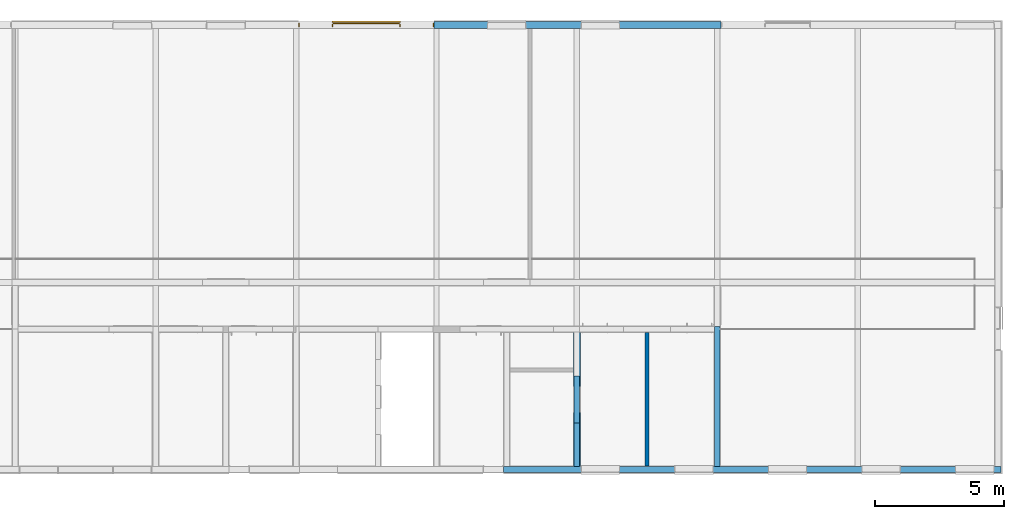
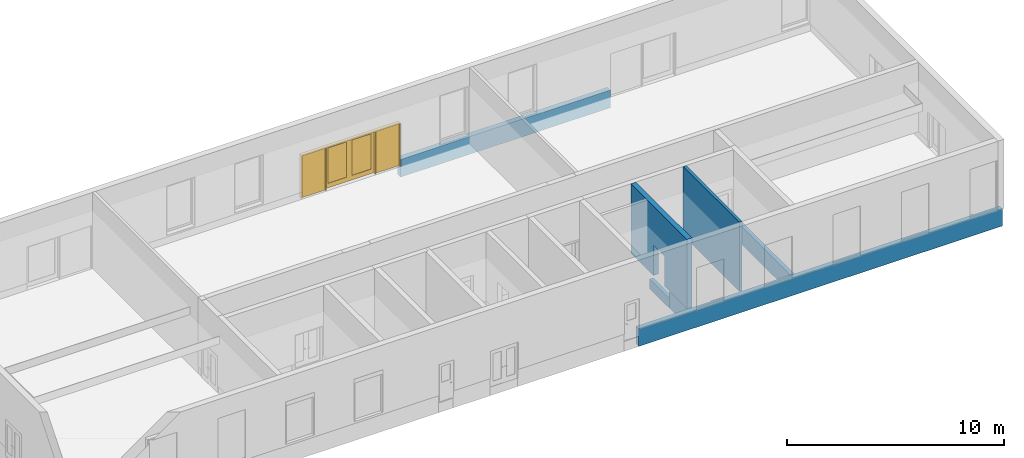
# One storey, part 13 of 22: 7 walls, 1 door, 2 openings.
"""IFC4X3 building model written with IfcOpenShell, lengths in millimetres."""

import ifcopenshell
import ifcopenshell.guid

model = None  # the IFC model being written
_history = None  # IfcOwnerHistory: only IFC2X3 demands one
_inside = {}  # id of a spatial element -> (the spatial element, [elements in it])
_under = {}  # id of a project, library or spatial element -> (it, [spatial elements below it])
_declared = {}  # id of a project -> (the project, [libraries it declares])
_typed = {}  # id of a type object -> (the type object, [elements of that type])
_made_of = {}  # id of a material, layer set ... -> (it, [elements and type objects made of it])


def new_model(schema):
    """Start an empty IFC model of exactly this schema.

    Asked for "IFC4X3", IfcOpenShell would pick the latest addendum, in which some entities
    have other attributes; the version numbers below select the first issue.
    IFC2X3 requires an IfcOwnerHistory on every rooted entity: one is made here for all.
    """
    global model, _history
    if schema == "IFC4X3":
        model = ifcopenshell.file(schema_version=(4, 3, 0, 0))
    else:
        model = ifcopenshell.file(schema=schema)
    _inside.clear()
    _under.clear()
    _declared.clear()
    _typed.clear()
    _made_of.clear()
    _history = None
    if model.schema == "IFC2X3":
        org = make("IfcOrganization", Name="unknown")
        user = make(
            "IfcPersonAndOrganization",
            ThePerson=make("IfcPerson", FamilyName="unknown"),
            TheOrganization=org,
        )
        app = make(
            "IfcApplication",
            ApplicationDeveloper=org,
            Version="unknown",
            ApplicationFullName="unknown",
            ApplicationIdentifier="unknown",
        )
        _history = make(
            "IfcOwnerHistory",
            OwningUser=user,
            OwningApplication=app,
            ChangeAction="ADDED",
            CreationDate=0,
        )
    return model


def make(cls, **values):
    """One entity of the class cls with the attributes given. An attribute that is None is left unset."""
    return model.create_entity(
        cls, **{name: value for name, value in values.items() if value is not None}
    )


def entity(cls, *values):
    """Any entity or typed value of the class cls, its attributes in the order of the schema. None: left unset."""
    e = model.create_entity(cls)
    for i, value in enumerate(values):
        if value is not None:
            e[i] = value
    return e


def rooted(cls, **values):
    """An entity with a GlobalId (a new one), such as an element, a storey or a relation."""
    return make(cls, GlobalId=ifcopenshell.guid.new(), OwnerHistory=_history, **values)


def si_unit(unit_type, name, prefix=None):
    """IfcSIUnit, for example si_unit("LENGTHUNIT", "METRE", prefix="MILLI")."""
    return make("IfcSIUnit", UnitType=unit_type, Prefix=prefix, Name=name)


def converted_unit(unit_type, name, factor, base, dimensions=None, offset=None):
    """IfcConversionBasedUnit, such as the inch: factor (a typed value) times the base unit."""
    return make(
        "IfcConversionBasedUnit"
        if offset is None
        else "IfcConversionBasedUnitWithOffset",
        ConversionOffset=offset,
        Dimensions=None
        if dimensions is None
        else entity("IfcDimensionalExponents", *dimensions),
        UnitType=unit_type,
        Name=name,
        ConversionFactor=make(
            "IfcMeasureWithUnit", ValueComponent=factor, UnitComponent=base
        ),
    )


def derived_unit(unit_type, elements):
    """IfcDerivedUnit: a product of units, each with its exponent."""
    return make(
        "IfcDerivedUnit",
        Elements=[
            make("IfcDerivedUnitElement", Unit=unit, Exponent=power)
            for unit, power in elements
        ],
        UnitType=unit_type,
    )


def assignment(units):
    """IfcUnitAssignment: the units of a project."""
    return None if units is None else make("IfcUnitAssignment", Units=units)


def point(xyz):
    """IfcCartesianPoint."""
    return None if xyz is None else make("IfcCartesianPoint", Coordinates=xyz)


def direction(xyz):
    """IfcDirection."""
    return None if xyz is None else make("IfcDirection", DirectionRatios=xyz)


def frame(location, z_axis=None, x_axis=None):
    """IfcAxis2Placement3D, a coordinate frame: its origin and axes. An axis left out is left unset."""
    return make(
        "IfcAxis2Placement3D",
        Location=point(location),
        Axis=direction(z_axis),
        RefDirection=direction(x_axis),
    )


def frame_2d(location, x_axis=None):
    """IfcAxis2Placement2D, a coordinate frame in the plane: its origin and x axis."""
    return make(
        "IfcAxis2Placement2D", Location=point(location), RefDirection=direction(x_axis)
    )


def origin():
    """The frame at (0, 0, 0) with its axes left unset."""
    return frame((0.0, 0.0, 0.0))


def origin_2d_with_axis():
    """The frame at (0, 0) in the plane with the x axis (1, 0) written out."""
    return frame_2d((0.0, 0.0), x_axis=(1.0, 0.0))


def place(relative_to, where):
    """IfcLocalPlacement: puts the frame where relative to a parent placement (None: the world)."""
    return make(
        "IfcLocalPlacement", PlacementRelTo=relative_to, RelativePlacement=where
    )


def context(
    kind, dimensions, precision=None, world=None, true_north=None, identifier=None
):
    """IfcGeometricRepresentationContext, for example the 3D "Model" context."""
    return make(
        "IfcGeometricRepresentationContext",
        ContextIdentifier=identifier,
        ContextType=kind,
        CoordinateSpaceDimension=dimensions,
        Precision=precision,
        WorldCoordinateSystem=world,
        TrueNorth=true_north,
    )


def subcontext(parent, identifier, kind, view, scale=None):
    """IfcGeometricRepresentationSubContext, for example "Body" below "Model"."""
    return make(
        "IfcGeometricRepresentationSubContext",
        ContextIdentifier=identifier,
        ContextType=kind,
        ParentContext=parent,
        TargetScale=scale,
        TargetView=view,
    )


def project(units=None, contexts=None):
    """IfcProject with its units and contexts."""
    return rooted(
        "IfcProject",
        Name="project",
        RepresentationContexts=contexts,
        UnitsInContext=assignment(units),
    )


def spatial(cls, under=None, at=None, **own):
    """A site, building, storey or space (cls), placed at a placement, below another one or the project."""
    s = rooted(cls, ObjectPlacement=at, **own)
    if under is not None:
        _under.setdefault(under.id(), (under, []))[1].append(s)
    return s


def polyline(points):
    """IfcPolyline through the points."""
    return make("IfcPolyline", Points=[point(p) for p in points])


def profile(cls, at=None, kind="AREA", **sizes):
    """A parametric profile (cls). Its sizes go by their IFC names, for example OverallWidth=200.0."""
    return make(cls, ProfileType=kind, Position=at, **sizes)


def rectangle(**sizes):
    """IfcRectangleProfileDef."""
    return profile("IfcRectangleProfileDef", **sizes)


def outline(outer, holes=None, kind="AREA"):
    """IfcArbitraryClosedProfileDef: a profile drawn as a closed curve; with holes, ...WithVoids."""
    if holes is None:
        return make("IfcArbitraryClosedProfileDef", ProfileType=kind, OuterCurve=outer)
    return make(
        "IfcArbitraryProfileDefWithVoids",
        ProfileType=kind,
        OuterCurve=outer,
        InnerCurves=holes,
    )


def extrude(swept, where, along, depth):
    """IfcExtrudedAreaSolid: the profile swept, set in the frame where, extruded along a direction by depth."""
    return make(
        "IfcExtrudedAreaSolid",
        SweptArea=swept,
        Position=where,
        ExtrudedDirection=direction(along),
        Depth=depth,
    )


def shape(context_of_items, identifier, shape_type, items):
    """IfcShapeRepresentation: the items that make up one representation, for example the "Body"."""
    return make(
        "IfcShapeRepresentation",
        ContextOfItems=context_of_items,
        RepresentationIdentifier=identifier,
        RepresentationType=shape_type,
        Items=items,
    )


def source(mapping_origin, context_of_items, identifier, shape_type, items):
    """IfcRepresentationMap: a shape defined once, which mapped items show again and again."""
    return make(
        "IfcRepresentationMap",
        MappingOrigin=mapping_origin,
        MappedRepresentation=shape(context_of_items, identifier, shape_type, items),
    )


def transform(
    local_origin,
    x_axis=None,
    y_axis=None,
    z_axis=None,
    scale=None,
    scale2=None,
    scale3=None,
    uniform=True,
):
    """IfcCartesianTransformationOperator3D, or its non-uniform kind. x_axis, y_axis, z_axis: its Axis1, 2, 3."""
    if uniform:
        return make(
            "IfcCartesianTransformationOperator3D",
            Axis1=direction(x_axis),
            Axis2=direction(y_axis),
            LocalOrigin=point(local_origin),
            Scale=scale,
            Axis3=direction(z_axis),
        )
    return make(
        "IfcCartesianTransformationOperator3DnonUniform",
        Axis1=direction(x_axis),
        Axis2=direction(y_axis),
        LocalOrigin=point(local_origin),
        Scale=scale,
        Axis3=direction(z_axis),
        Scale2=scale2,
        Scale3=scale3,
    )


def mapped(mapping_source, mapping_target):
    """IfcMappedItem: shows the shape of a source again, moved by a transform."""
    return make(
        "IfcMappedItem", MappingSource=mapping_source, MappingTarget=mapping_target
    )


def material(Name=None, Category=None):
    """IfcMaterial."""
    return make("IfcMaterial", Name=Name, Category=Category)


def layer(
    of_material, thickness, ventilated=None, Name=None, Category=None, Priority=None
):
    """IfcMaterialLayer: one layer of a wall or slab, of a material (None: an air gap)."""
    return make(
        "IfcMaterialLayer",
        Material=of_material,
        LayerThickness=thickness,
        IsVentilated=ventilated,
        Name=Name,
        Category=Category,
        Priority=Priority,
    )


def layer_set(layers, Name=None):
    """IfcMaterialLayerSet."""
    return make("IfcMaterialLayerSet", MaterialLayers=layers, LayerSetName=Name)


def constituent(of_material, Name=None, Category=None, fraction=None):
    """IfcMaterialConstituent: one of the materials an element consists of."""
    return make(
        "IfcMaterialConstituent",
        Name=Name,
        Material=of_material,
        Fraction=fraction,
        Category=Category,
    )


def constituent_set(constituents=None, Name=None):
    """IfcMaterialConstituentSet."""
    return make(
        "IfcMaterialConstituentSet", Name=Name, MaterialConstituents=constituents
    )


def made_of(thing, what):
    """Note that an element or type object is made of a material, layer set ...; save() writes the relation."""
    if what is not None:
        _made_of.setdefault(what.id(), (what, []))[1].append(thing)
    return thing


def type_object(cls, material=None, **own):
    """A type object (cls), such as IfcWallType, which elements share."""
    return made_of(rooted(cls, **own), material)


def type_shapes(of_type, sources):
    """Give a type object the sources (RepresentationMaps) that its elements show as mapped items."""
    of_type.RepresentationMaps = sources


def element(
    cls,
    number,
    at=None,
    inside=None,
    cuts=None,
    type_object=None,
    material=None,
    context=None,
    identifier="Body",
    shape_type=None,
    held_by="IfcProductDefinitionShape",
    body=None,
    shapes=None,
    **own,
):
    """One element of the class cls, such as IfcWall. Its Tag is "e" and its number.

    at: its placement. inside: the storey or other place that contains it. cuts: it is an
    opening in that element (IfcRelVoidsElement). A single representation is given by context,
    identifier, shape_type and body (its items); several are given by shapes. held_by: the class
    of the entity that holds the representations. save() writes the other relations.
    """
    e = rooted(cls, Tag="e%d" % number, ObjectPlacement=at, **own)
    if body is not None:
        shapes = [shape(context, identifier, shape_type, body)]
    if shapes is not None:
        e.Representation = make(held_by, Representations=shapes)
    if inside is not None:
        _inside.setdefault(inside.id(), (inside, []))[1].append(e)
    if cuts is not None:
        rooted(
            "IfcRelVoidsElement", RelatingBuildingElement=cuts, RelatedOpeningElement=e
        )
    if type_object is not None:
        _typed.setdefault(type_object.id(), (type_object, []))[1].append(e)
    return made_of(e, material)


def fill(opening, filler):
    """IfcRelFillsElement: the door or window that sits in an opening."""
    return rooted(
        "IfcRelFillsElement",
        RelatingOpeningElement=opening,
        RelatedBuildingElement=filler,
    )


def aggregate(whole, parts):
    """IfcRelAggregates: a whole, such as a stair, and the parts it consists of."""
    return rooted("IfcRelAggregates", RelatingObject=whole, RelatedObjects=parts)


def save(model, path):
    """Write the relations noted so far, then the file.

    IfcRelAggregates (storeys below a building ...), IfcRelContainedInSpatialStructure (elements
    in a storey), IfcRelDefinesByType, IfcRelAssociatesMaterial and IfcRelDeclares: one each for
    every whole, place, type object, material and project.
    """
    for whole, parts in _under.values():
        aggregate(whole, parts)
    for where, things in _inside.values():
        rooted(
            "IfcRelContainedInSpatialStructure",
            RelatedElements=things,
            RelatingStructure=where,
        )
    for kind, things in _typed.values():
        rooted("IfcRelDefinesByType", RelatedObjects=things, RelatingType=kind)
    for what, things in _made_of.values():
        rooted("IfcRelAssociatesMaterial", RelatedObjects=things, RelatingMaterial=what)
    for by, libraries in _declared.values():
        rooted("IfcRelDeclares", RelatingContext=by, RelatedDefinitions=libraries)
    model.write(path)


model = new_model("IFC4X3")

# Units and contexts
model_context = context("Model", 3, precision=0.01, world=origin(), true_north=direction((6.12303176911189e-17, 1.0)))
body_context = subcontext(model_context, "Body", "Model", "MODEL_VIEW")
ifc_project = project(units=[si_unit("LENGTHUNIT", "METRE", prefix="MILLI"), si_unit("AREAUNIT", "SQUARE_METRE"), si_unit("VOLUMEUNIT", "CUBIC_METRE"), converted_unit("PLANEANGLEUNIT", "DEGREE", entity("IfcPlaneAngleMeasure", 0.0174532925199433), si_unit("PLANEANGLEUNIT", "RADIAN"), dimensions=[0, 0, 0, 0, 0, 0, 0]), si_unit("MASSUNIT", "GRAM", prefix="KILO"), derived_unit("MASSDENSITYUNIT", [(si_unit("MASSUNIT", "GRAM", prefix="KILO"), 1), (si_unit("LENGTHUNIT", "METRE"), -3)]), derived_unit("IONCONCENTRATIONUNIT", [(si_unit("MASSUNIT", "GRAM", prefix="KILO"), 1), (si_unit("LENGTHUNIT", "METRE"), -3)]), derived_unit("MOMENTOFINERTIAUNIT", [(si_unit("LENGTHUNIT", "METRE"), 4)]), si_unit("TIMEUNIT", "SECOND"), si_unit("FREQUENCYUNIT", "HERTZ"), si_unit("THERMODYNAMICTEMPERATUREUNIT", "DEGREE_CELSIUS"), derived_unit("THERMALTRANSMITTANCEUNIT", [(si_unit("MASSUNIT", "GRAM", prefix="KILO"), 1), (si_unit("THERMODYNAMICTEMPERATUREUNIT", "KELVIN"), -1), (si_unit("TIMEUNIT", "SECOND"), -3)]), derived_unit("THERMALCONDUCTANCEUNIT", [(si_unit("MASSUNIT", "GRAM", prefix="KILO"), 1), (si_unit("THERMODYNAMICTEMPERATUREUNIT", "KELVIN"), -1), (si_unit("TIMEUNIT", "SECOND"), -3), (si_unit("LENGTHUNIT", "METRE"), 1)]), derived_unit("VOLUMETRICFLOWRATEUNIT", [(si_unit("LENGTHUNIT", "METRE", prefix="DECI"), 3), (si_unit("TIMEUNIT", "SECOND"), -1)]), derived_unit("MASSFLOWRATEUNIT", [(si_unit("MASSUNIT", "GRAM", prefix="KILO"), 1), (si_unit("TIMEUNIT", "SECOND"), -1)]), derived_unit("ROTATIONALFREQUENCYUNIT", [(si_unit("TIMEUNIT", "SECOND"), -1)]), si_unit("ELECTRICCURRENTUNIT", "AMPERE"), si_unit("ELECTRICVOLTAGEUNIT", "VOLT"), si_unit("POWERUNIT", "WATT"), si_unit("FORCEUNIT", "NEWTON", prefix="KILO"), si_unit("ILLUMINANCEUNIT", "LUX"), si_unit("LUMINOUSFLUXUNIT", "LUMEN"), si_unit("LUMINOUSINTENSITYUNIT", "CANDELA"), si_unit("ENERGYUNIT", "JOULE"), derived_unit("USERDEFINED", [(si_unit("MASSUNIT", "GRAM", prefix="KILO"), -1), (si_unit("LENGTHUNIT", "METRE"), -2), (si_unit("TIMEUNIT", "SECOND"), 3), (si_unit("LUMINOUSFLUXUNIT", "LUMEN"), 1)]), derived_unit("USERDEFINED", [(si_unit("MASSUNIT", "GRAM", prefix="KILO"), 1), (si_unit("TIMEUNIT", "SECOND"), -3), (si_unit("LENGTHUNIT", "METRE"), 3), (si_unit("ELECTRICCURRENTUNIT", "AMPERE"), -2)]), derived_unit("SOUNDPOWERUNIT", [(si_unit("MASSUNIT", "GRAM", prefix="KILO"), 1), (si_unit("TIMEUNIT", "SECOND"), -3), (si_unit("LENGTHUNIT", "METRE"), 2)]), derived_unit("SOUNDPRESSUREUNIT", [(si_unit("MASSUNIT", "GRAM", prefix="KILO"), 1), (si_unit("LENGTHUNIT", "METRE"), -1), (si_unit("TIMEUNIT", "SECOND"), -2)]), derived_unit("LINEARVELOCITYUNIT", [(si_unit("LENGTHUNIT", "METRE"), 1), (si_unit("TIMEUNIT", "SECOND"), -1)]), si_unit("PRESSUREUNIT", "PASCAL"), derived_unit("USERDEFINED", [(si_unit("MASSUNIT", "GRAM", prefix="KILO"), 1), (si_unit("LENGTHUNIT", "METRE"), -2), (si_unit("TIMEUNIT", "SECOND"), -2)]), derived_unit("LINEARFORCEUNIT", [(si_unit("MASSUNIT", "GRAM", prefix="KILO"), 1), (si_unit("TIMEUNIT", "SECOND"), -2)]), derived_unit("PLANARFORCEUNIT", [(si_unit("MASSUNIT", "GRAM", prefix="KILO"), 1), (si_unit("LENGTHUNIT", "METRE"), -1), (si_unit("TIMEUNIT", "SECOND"), -2)]), derived_unit("SPECIFICHEATCAPACITYUNIT", [(si_unit("THERMODYNAMICTEMPERATUREUNIT", "KELVIN"), -1), (si_unit("LENGTHUNIT", "METRE"), 2), (si_unit("TIMEUNIT", "SECOND"), -2)]), derived_unit("HEATFLUXDENSITYUNIT", [(si_unit("MASSUNIT", "GRAM", prefix="KILO"), 1), (si_unit("TIMEUNIT", "SECOND"), -3)]), derived_unit("HEATINGVALUEUNIT", [(si_unit("LENGTHUNIT", "METRE"), 2), (si_unit("TIMEUNIT", "SECOND"), -2)]), derived_unit("VAPORPERMEABILITYUNIT", [(si_unit("LENGTHUNIT", "METRE"), -1), (si_unit("TIMEUNIT", "SECOND"), 1)]), derived_unit("DYNAMICVISCOSITYUNIT", [(si_unit("MASSUNIT", "GRAM", prefix="KILO"), 1), (si_unit("TIMEUNIT", "SECOND"), -1), (si_unit("LENGTHUNIT", "METRE"), -1)]), derived_unit("THERMALEXPANSIONCOEFFICIENTUNIT", [(si_unit("THERMODYNAMICTEMPERATUREUNIT", "KELVIN"), -1)]), derived_unit("MODULUSOFELASTICITYUNIT", [(si_unit("MASSUNIT", "GRAM", prefix="KILO"), 1), (si_unit("LENGTHUNIT", "METRE"), -1), (si_unit("TIMEUNIT", "SECOND"), -2)]), derived_unit("ISOTHERMALMOISTURECAPACITYUNIT", [(si_unit("MASSUNIT", "GRAM", prefix="KILO"), -1), (si_unit("LENGTHUNIT", "METRE"), 3)]), derived_unit("MOISTUREDIFFUSIVITYUNIT", [(si_unit("TIMEUNIT", "SECOND"), -1), (si_unit("LENGTHUNIT", "METRE"), 2)]), derived_unit("AREADENSITYUNIT", [(si_unit("MASSUNIT", "GRAM", prefix="KILO"), 1), (si_unit("LENGTHUNIT", "METRE"), 2)]), derived_unit("MASSPERLENGTHUNIT", [(si_unit("MASSUNIT", "GRAM", prefix="KILO"), 1), (si_unit("LENGTHUNIT", "METRE"), -1)]), derived_unit("THERMALRESISTANCEUNIT", [(si_unit("MASSUNIT", "GRAM", prefix="KILO"), -1), (si_unit("TIMEUNIT", "SECOND"), 3), (si_unit("THERMODYNAMICTEMPERATUREUNIT", "KELVIN"), 1)]), derived_unit("ACCELERATIONUNIT", [(si_unit("LENGTHUNIT", "METRE"), 1), (si_unit("TIMEUNIT", "SECOND"), -2)]), derived_unit("ANGULARVELOCITYUNIT", [(si_unit("TIMEUNIT", "SECOND"), -1), (si_unit("PLANEANGLEUNIT", "RADIAN"), 1)]), derived_unit("LINEARSTIFFNESSUNIT", [(si_unit("MASSUNIT", "GRAM", prefix="KILO"), 1), (si_unit("TIMEUNIT", "SECOND"), -2)]), derived_unit("WARPINGCONSTANTUNIT", [(si_unit("LENGTHUNIT", "METRE"), 6)]), derived_unit("LINEARMOMENTUNIT", [(si_unit("MASSUNIT", "GRAM", prefix="KILO"), 1), (si_unit("LENGTHUNIT", "METRE"), 1), (si_unit("TIMEUNIT", "SECOND"), -2)]), derived_unit("TORQUEUNIT", [(si_unit("MASSUNIT", "GRAM", prefix="KILO"), 1), (si_unit("LENGTHUNIT", "METRE"), 2), (si_unit("TIMEUNIT", "SECOND"), -2)])], contexts=[model_context])

# Site, building, storey
site_placement = place(None, origin())
site = spatial("IfcSite", under=ifc_project, at=site_placement, Name="Default", CompositionType="ELEMENT")
building_placement = place(site_placement, origin())
building = spatial("IfcBuilding", under=site, at=building_placement, Name="事務所ビル", CompositionType="ELEMENT")
storey_placement = place(building_placement, origin())
storey = spatial("IfcBuildingStorey", under=building, at=storey_placement, Name="1FL", CompositionType="ELEMENT", Elevation=0.0)

# Wall, opening, door
ifc_material_1 = material(Name="*コンクリート")
ifc_layer_1 = layer(ifc_material_1, 270.0, Name="*コンクリート")
ifc_layer_set_1 = layer_set([ifc_layer_1], Name="標準壁:(基礎梁)RC_w270h1000")
wall_type_1 = type_object("IfcWallType", Name="標準壁:(基礎梁)RC_w270h1000", PredefinedType="STANDARD", material=ifc_layer_set_1)
wall_1_placement = place(storey_placement, frame((27195.0, 17290.0, -600.0)))
wall_1 = element("IfcWall", 1, at=wall_1_placement, inside=storey, type_object=wall_type_1, material=ifc_layer_set_1, Name="標準壁:(基礎梁)RC_w270h1000", ObjectType="標準壁:(基礎梁)RC_w270h1000", PredefinedType="NOTDEFINED", context=body_context, shape_type="SweptSolid", body=[
    extrude(rectangle(XDim=11165.0, YDim=269.999999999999, at=frame_2d((5582.5, 3.83693077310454e-13), x_axis=(-1.0, 0.0))), origin(), (0.0, 0.0, 1.0), 1000.0),
])
opening_1_placement = place(wall_1_placement, frame((-5265.0, -135.0, 600.0)))
opening_1 = element("IfcOpeningElement", 2, at=opening_1_placement, cuts=wall_1, Name="自動ドア - 両引き - 框:鋼製戸 - 両引き - 框:1", PredefinedType="OPENING", context=body_context, shape_type="SweptSolid", body=[
    extrude(rectangle(XDim=2440.00000000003, YDim=5280.0, at=frame_2d((1220.00000000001, 2640.0), x_axis=(1.0, 0.0))), frame((0.0, 0.0, 0.0), z_axis=(0.0, 1.0, 0.0), x_axis=(0.0, 0.0, 1.0)), (0.0, 0.0, 1.0), 270.0),
])
ifc_material_2 = material(Name="<Unnamed>")
ifc_constituent_1 = constituent(ifc_material_2, Name="<Unnamed>")
ifc_material_3 = material(Name="ガラス", Category="ガラス")
ifc_constituent_2 = constituent(ifc_material_3, Name="ガラス", Category="ガラス")
ifc_constituent_set_1 = constituent_set(constituents=[ifc_constituent_1, ifc_constituent_2])
ifc_constituent_3 = constituent(ifc_material_2, Name="パネル")
ifc_constituent_4 = constituent(ifc_material_3, Name="ガラス", Category="ガラス")
ifc_constituent_5 = constituent(ifc_material_2, Name="フレーム/マリオン")
ifc_constituent_set_2 = constituent_set(constituents=[ifc_constituent_3, ifc_constituent_4, ifc_constituent_5])
door_type = type_object("IfcDoorType", Name="自動ドア - 両引き - 框:鋼製戸 - 両引き - 框", OperationType="NOTDEFINED", ParameterTakesPrecedence=False, PredefinedType="DOOR", material=ifc_constituent_set_2)
shared_shape = source(origin(), body_context, "Body", "SweptSolid", [
    extrude(outline(polyline([(-650.0, -1195.0), (650.0, -1195.0), (650.0, 1195.0), (-650.0, 1195.0), (-650.0, -1195.0)]), holes=[polyline([(-500.0, 1045.0), (500.0, 1045.0), (500.0, -945.0), (-500.0, -945.0), (-500.0, 1045.0)])]), frame((1990.0, 180.0, 1205.0), z_axis=(0.0, 1.0, 0.0), x_axis=(-1.0, 0.0, 0.0)), (0.0, 0.0, 1.0), 40.0000000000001),
    extrude(rectangle(XDim=124.999999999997, YDim=39.9999999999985, at=origin_2d_with_axis()), frame((3960.0, 112.500000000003, 0.0), z_axis=(0.0, 0.0, 1.0), x_axis=(0.0, 1.0, 0.0)), (0.0, 0.0, 1.0), 2400.0),
    extrude(rectangle(XDim=124.999999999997, YDim=40.0000000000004, at=frame_2d((0.0, 1.35003119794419e-13), x_axis=(1.0, 0.0))), frame((1320.0, 112.500000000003, 0.0), z_axis=(0.0, 0.0, 1.0), x_axis=(0.0, 1.0, 0.0)), (0.0, 0.0, 1.0), 2400.0),
    extrude(rectangle(XDim=4.0, YDim=1260.0, at=frame_2d((-1.99840144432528e-15, 2.8421709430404e-13), x_axis=(1.0, 0.0))), frame((4610.0, 112.499999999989, 0.0), z_axis=(0.0, 0.0, 1.0), x_axis=(0.0, -1.0, 0.0)), (0.0, 0.0, 1.0), 100.000000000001),
    extrude(rectangle(XDim=4.0, YDim=1260.00000000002, at=frame_2d((-1.99840144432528e-15, 0.0), x_axis=(1.0, 0.0))), frame((670.0, 112.500000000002, 0.0), z_axis=(0.0, 0.0, 1.0), x_axis=(0.0, -1.0, 0.0)), (0.0, 0.0, 1.0), 100.0),
    extrude(rectangle(XDim=4.0, YDim=1260.0, at=frame_2d((-1.99840144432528e-15, -2.8421709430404e-13), x_axis=(1.0, 0.0))), frame((4610.0, 112.499999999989, 100.0), z_axis=(0.0, 0.0, 1.0), x_axis=(0.0, -1.0, 0.0)), (0.0, 0.0, 1.0), 2300.0),
    extrude(rectangle(XDim=4.0, YDim=1260.00000000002, at=frame_2d((-1.99840144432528e-15, 0.0), x_axis=(1.0, 0.0))), frame((670.0, 112.500000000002, 100.0), z_axis=(0.0, 0.0, 1.0), x_axis=(0.0, -1.0, 0.0)), (0.0, 0.0, 1.0), 2299.99999999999),
    extrude(outline(polyline([(-1210.0, -2640.0), (1230.0, -2640.0), (1230.0, 2640.0), (-1210.0, 2640.0), (-1210.0, 2600.0), (1190.0, 2600.0), (1190.0, -2600.0), (-1210.0, -2600.0), (-1210.0, -2640.0)])), frame((2640.0, 50.0, 1210.0), z_axis=(0.0, 1.0, 0.0), x_axis=(0.0, 0.0, 1.0)), (0.0, 0.0, 1.0), 169.999999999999),
    extrude(rectangle(XDim=4.00000000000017, YDim=1000.0, at=frame_2d((0.0, 8.5265128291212e-14), x_axis=(1.0, 0.0))), frame((3290.0, 200.0, 260.0), z_axis=(0.0, 0.0, 1.0), x_axis=(0.0, -1.0, 0.0)), (0.0, 0.0, 1.0), 1989.99999999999),
    extrude(rectangle(XDim=4.00000000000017, YDim=999.999999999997, at=frame_2d((8.43769498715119e-15, 0.0), x_axis=(1.0, 0.0))), frame((1990.0, 200.0, 260.0), z_axis=(0.0, 0.0, 1.0), x_axis=(0.0, -1.0, 0.0)), (0.0, 0.0, 1.0), 1990.0),
    extrude(outline(polyline([(-650.0, -1195.0), (650.0, -1195.0), (650.0, 1195.0), (-650.0, 1195.0), (-650.0, -1195.0)]), holes=[polyline([(-500.0, 1045.0), (500.0, 1045.0), (500.0, -945.0), (-500.0, -945.0), (-500.0, 1045.0)])]), frame((3290.0, 180.0, 1205.0), z_axis=(0.0, 1.0, 0.0), x_axis=(-1.0, 0.0, 0.0)), (0.0, 0.0, 1.0), 40.0000000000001),
    extrude(rectangle(XDim=2680.0, YDim=45.0000000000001, at=frame_2d((0.0, 1.77635683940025e-14), x_axis=(1.0, 0.0))), frame((2640.0, 257.500000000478, -15.0), z_axis=(0.0, 0.0, 1.0), x_axis=(-1.0, 0.0, 0.0)), (0.0, 0.0, 1.0), 20.0),
])
type_shapes(door_type, [shared_shape])
door_placement = place(opening_1_placement, origin())
door = element("IfcDoor", 3, at=door_placement, inside=storey, type_object=door_type, material=ifc_constituent_set_1, Name="自動ドア - 両引き - 框:鋼製戸 - 両引き - 框", ObjectType="自動ドア - 両引き - 框:鋼製戸 - 両引き - 框", OperationType="NOTDEFINED", OverallHeight=2440.00000000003, OverallWidth=5280.0, PredefinedType="DOOR", context=body_context, shape_type="MappedRepresentation", body=[
    mapped(shared_shape, transform((0.0, 0.0, 0.0), scale=1.0)),
])
fill(opening_1, door)

# Walls
ifc_layer_2 = layer(ifc_material_1, 240.0, Name="*コンクリート")
ifc_layer_set_2 = layer_set([ifc_layer_2], Name="標準壁:(基礎梁)RC_w240h1000")
wall_type_2 = type_object("IfcWallType", Name="標準壁:(基礎梁)RC_w240h1000", PredefinedType="STANDARD", material=ifc_layer_set_2)
wall_2_placement = place(storey_placement, frame((29898.0, 0.0, -600.0)))
element("IfcWall", 4, at=wall_2_placement, inside=storey, type_object=wall_type_2, material=ifc_layer_set_2, Name="標準壁:(基礎梁)RC_w240h1000", ObjectType="標準壁:(基礎梁)RC_w240h1000", PredefinedType="NOTDEFINED", context=body_context, shape_type="SweptSolid", body=[
    extrude(rectangle(XDim=19362.0, YDim=240.0, at=frame_2d((9681.00000000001, 0.0), x_axis=(-1.0, 0.0))), origin(), (0.0, 0.0, 1.0), 1000.0),
])
ifc_layer_3 = layer(ifc_material_1, 210.0, Name="*コンクリート")
ifc_layer_set_3 = layer_set([ifc_layer_3], Name="標準壁:(基礎梁)RC_w210h650")
wall_type_3 = type_object("IfcWallType", Name="標準壁:(基礎梁)RC_w210h650", PredefinedType="STANDARD", material=ifc_layer_set_3)
wall_3_placement = place(storey_placement, frame((32760.0, 1820.0, -600.0), z_axis=(0.0, 0.0, 1.0), x_axis=(0.0, 1.0, 0.0)))
element("IfcWall", 5, at=wall_3_placement, inside=storey, type_object=wall_type_3, material=ifc_layer_set_3, Name="標準壁:(基礎梁)RC_w210h650", ObjectType="標準壁:(基礎梁)RC_w210h650", PredefinedType="NOTDEFINED", context=body_context, shape_type="SweptSolid", body=[
    extrude(rectangle(XDim=1820.0, YDim=210.000000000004, at=frame_2d((910.0, 0.0), x_axis=(-1.0, 0.0))), origin(), (0.0, 0.0, 1.0), 550.0),
])
ifc_layer_4 = layer(ifc_material_1, 210.0, Name="*コンクリート")
ifc_layer_set_4 = layer_set([ifc_layer_4], Name="標準壁:(基礎梁)RC_w210h1000")
wall_type_4 = type_object("IfcWallType", Name="標準壁:(基礎梁)RC_w210h1000", PredefinedType="STANDARD", material=ifc_layer_set_4)
wall_4_placement = place(storey_placement, frame((32760.0, 120.0, -600.0), z_axis=(0.0, 0.0, 1.0), x_axis=(0.0, 1.0, 0.0)))
element("IfcWall", 6, at=wall_4_placement, inside=storey, type_object=wall_type_4, material=ifc_layer_set_4, Name="標準壁:(基礎梁)RC_w210h1000", ObjectType="標準壁:(基礎梁)RC_w210h1000", PredefinedType="NOTDEFINED", context=body_context, shape_type="SweptSolid", body=[
    extrude(rectangle(XDim=1700.0, YDim=210.000000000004, at=frame_2d((850.0, -1.4210854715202e-13), x_axis=(-1.0, 0.0))), origin(), (0.0, 0.0, 1.0), 1000.0),
])
wall_5_placement = place(storey_placement, frame((38220.0, 120.0, -600.0), z_axis=(0.0, 0.0, 1.0), x_axis=(0.0, 1.0, 0.0)))
element("IfcWall", 7, at=wall_5_placement, inside=storey, type_object=wall_type_4, material=ifc_layer_set_4, Name="標準壁:(基礎梁)RC_w210h1000", ObjectType="標準壁:(基礎梁)RC_w210h1000", PredefinedType="NOTDEFINED", context=body_context, shape_type="SweptSolid", body=[
    extrude(rectangle(XDim=5445.0, YDim=210.000000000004, at=frame_2d((2722.5, -7.105427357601e-15), x_axis=(-1.0, 0.0))), origin(), (0.0, 0.0, 1.0), 1000.0),
])

# Wall, opening
ifc_material_4 = material(Name="せっこうボード", Category="一般")
ifc_layer_5 = layer(ifc_material_4, 15.0, Name="せっこうボード", Category="一般")
ifc_material_5 = material(Name="合板", Category="一般")
ifc_layer_6 = layer(ifc_material_5, 12.0, Name="合板", Category="一般")
ifc_material_6 = material(Name="天然木材", Category="一般")
ifc_layer_7 = layer(ifc_material_6, 210.0, Name="天然木材", Category="一般")
ifc_layer_8 = layer(ifc_material_5, 12.0, Name="合板", Category="一般")
ifc_layer_9 = layer(ifc_material_4, 15.0, Name="せっこうボード", Category="一般")
ifc_layer_set_5 = layer_set([ifc_layer_5, ifc_layer_6, ifc_layer_7, ifc_layer_8, ifc_layer_9], Name="標準壁:GB-R15_構造用合板12_木210_構造用合板12_GB-R15")
wall_type_5 = type_object("IfcWallType", Name="標準壁:GB-R15_構造用合板12_木210_構造用合板12_GB-R15", PredefinedType="STANDARD", material=ifc_layer_set_5)
wall_6_placement = place(storey_placement, frame((32760.0, 147.0, 400.0), z_axis=(0.0, 0.0, 1.0), x_axis=(0.0, 1.0, 0.0)))
wall_6 = element("IfcWall", 8, at=wall_6_placement, inside=storey, type_object=wall_type_5, material=ifc_layer_set_5, Name="標準壁:GB-R15_構造用合板12_木210_構造用合板12_GB-R15", ObjectType="標準壁:GB-R15_構造用合板12_木210_構造用合板12_GB-R15", PredefinedType="NOTDEFINED", context=body_context, shape_type="SweptSolid", body=[
    extrude(rectangle(XDim=5181.00000000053, YDim=264.000000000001, at=frame_2d((2590.50000000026, -2.1316282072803e-13), x_axis=(1.0, 0.0))), origin(), (0.0, 0.0, 1.0), 3900.0),
])
opening_2_placement = place(wall_6_placement, frame((2074.49999999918, -132.0, -400.0)))
element("IfcOpeningElement", 9, at=opening_2_placement, cuts=wall_6, Name="ドア-開口部:1017 x 2100mm:1", PredefinedType="OPENING", context=body_context, shape_type="SweptSolid", body=[
    extrude(rectangle(XDim=2100.0, YDim=1017.0, at=frame_2d((1050.0, 508.5), x_axis=(-1.0, 0.0))), frame((0.0, 0.0, 0.0), z_axis=(0.0, 1.0, 0.0), x_axis=(0.0, 0.0, 1.0)), (0.0, 0.0, 1.0), 264.0),
])

# Wall
ifc_layer_10 = layer(ifc_material_2, 15.0, Name="Layer")
ifc_layer_11 = layer(ifc_material_6, 120.0, Name="天然木材", Category="一般")
ifc_layer_12 = layer(ifc_material_2, 15.0, Name="Layer")
ifc_layer_set_6 = layer_set([ifc_layer_10, ifc_layer_11, ifc_layer_12], Name="標準壁:GB-R15_木120_GB-R15")
wall_type_6 = type_object("IfcWallType", Name="標準壁:GB-R15_木120_GB-R15", PredefinedType="STANDARD", material=ifc_layer_set_6)
wall_7_placement = place(storey_placement, frame((35490.0, 147.0, 400.0), z_axis=(0.0, 0.0, 1.0), x_axis=(0.0, 1.0, 0.0)))
element("IfcWall", 10, at=wall_7_placement, inside=storey, type_object=wall_type_6, material=ifc_layer_set_6, Name="標準壁:GB-R15_木120_GB-R15", ObjectType="標準壁:GB-R15_木120_GB-R15", PredefinedType="NOTDEFINED", context=body_context, shape_type="SweptSolid", body=[
    extrude(rectangle(XDim=5181.00000000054, YDim=150.000000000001, at=frame_2d((2590.50000000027, -2.06057393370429e-13), x_axis=(-1.0, 0.0))), origin(), (0.0, 0.0, 1.0), 3900.0),
])

save(model, "model.ifc")
